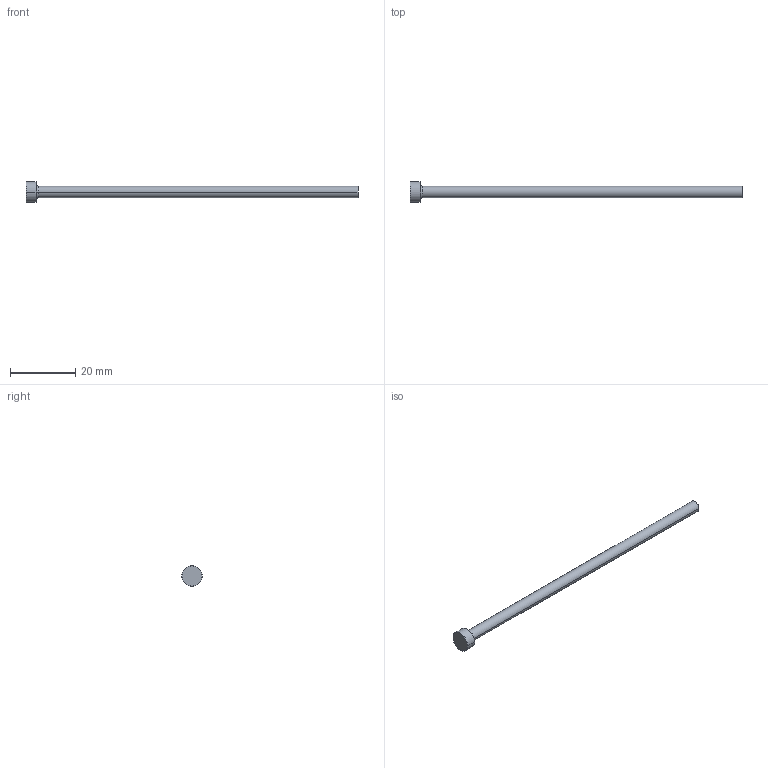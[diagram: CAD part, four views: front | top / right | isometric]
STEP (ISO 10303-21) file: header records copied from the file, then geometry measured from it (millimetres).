
FILE_DESCRIPTION (( 'STEP AP214' ), '1' );
FILE_NAME ('P10-4.STEP', '2020-03-11T17:36:35', ( '' ), ( '' ), 'SwSTEP 2.0', 'SolidWorks 2018', '' );
FILE_SCHEMA (( 'AUTOMOTIVE_DESIGN' ));
Length unit declared in the file: inch
Products named in the file (1): P10-4
Bounding box: 101.6 x 6.35 x 6.35 mm (x, y, z)
Volume: 1083.9 mm3; surface area: 1223 mm2
Topology: 1 solids, 1 shells, 13 faces, 24 edges, 14 vertices
Faces by surface type: cone 4, cylinder 4, plane 3, torus 2
Entity records: 366 total; most frequent: DIRECTION 68, CARTESIAN_POINT 52, ORIENTED_EDGE 48, AXIS2_PLACEMENT_3D 30, EDGE_CURVE 24, CIRCLE 16, VERTEX_POINT 14, EDGE_LOOP 14
